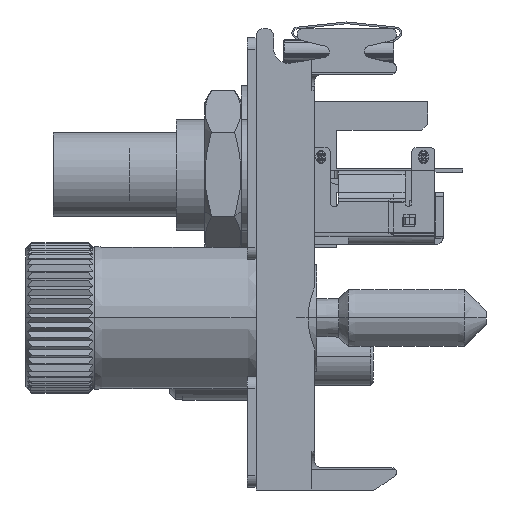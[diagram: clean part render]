
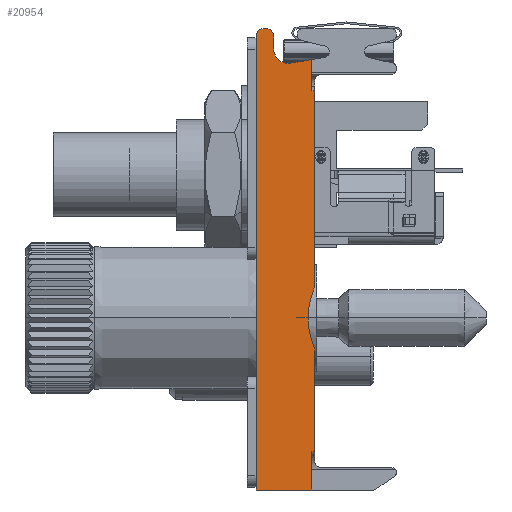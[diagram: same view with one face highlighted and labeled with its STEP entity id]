
A CAD part, front view. The second image highlights one B-rep face of the part: STEP entity #20954.
In plain terms, the highlighted planar face has unit normal (0, -1, 0).
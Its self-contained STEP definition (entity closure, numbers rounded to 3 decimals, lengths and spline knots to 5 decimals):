
#614=DIRECTION('',(0.,0.,1.));
#615=VECTOR('',#614,0.482);
#616=CARTESIAN_POINT('',(-0.20023,-4.502,0.20798));
#617=LINE('',#616,#615);
#654=CARTESIAN_POINT('',(-0.20023,-4.502,0.20798));
#694=DIRECTION('',(0.,0.,1.));
#695=VECTOR('',#694,0.294);
#696=CARTESIAN_POINT('',(-0.20023,-4.502,-0.08602));
#697=LINE('',#696,#695);
#935=DIRECTION('',(1.,0.,0.));
#936=VECTOR('',#935,0.095);
#937=CARTESIAN_POINT('',(-0.20023,-4.502,-0.08602));
#938=LINE('',#937,#936);
#1137=DIRECTION('',(0.,0.,1.));
#1138=VECTOR('',#1137,0.17544);
#1139=CARTESIAN_POINT('',(-0.10023,-4.502,-0.02052));
#1140=LINE('',#1139,#1138);
#1146=DIRECTION('',(0.,0.,1.));
#1147=VECTOR('',#1146,0.33494);
#1148=CARTESIAN_POINT('',(-0.10023,-4.502,
0.26104));
#1149=LINE('',#1148,#1147);
#3898=CARTESIAN_POINT('',(-0.18823,-4.502,0.68998));
#3899=DIRECTION('',(0.,-1.,0.));
#3900=DIRECTION('',(0.,0.,1.));
#3901=AXIS2_PLACEMENT_3D('',#3898,#3899,#3900);
#3903=CARTESIAN_POINT('',(-0.18223,-4.502,0.68998));
#3904=DIRECTION('',(0.,-1.,0.));
#3905=DIRECTION('',(1.,0.,0.));
#3906=AXIS2_PLACEMENT_3D('',#3903,#3904,#3905);
#3908=DIRECTION('',(0.,0.,-1.));
#3909=VECTOR('',#3908,0.022);
#3910=CARTESIAN_POINT('',(-0.17023,-4.502,0.68998));
#3911=LINE('',#3910,#3909);
#3912=CARTESIAN_POINT('',(-0.14523,-4.502,0.66798));
#3913=DIRECTION('',(0.,-1.,0.));
#3914=DIRECTION('',(-1.,0.,0.));
#3915=AXIS2_PLACEMENT_3D('',#3912,#3913,#3914);
#3917=DIRECTION('',(0.986,0.,0.168));
#3918=VECTOR('',#3917,0.03632);
#3919=CARTESIAN_POINT('',(-0.14103,-4.502,0.64333));
#3920=LINE('',#3919,#3918);
#3921=DIRECTION('',(0.,0.,1.));
#3922=VECTOR('',#3921,0.05345);
#3923=CARTESIAN_POINT('',(-0.10523,-4.502,0.59598));
#3924=LINE('',#3923,#3922);
#3925=DIRECTION('',(-1.,0.,0.));
#3926=VECTOR('',#3925,0.005);
#3927=CARTESIAN_POINT('',(-0.10023,-4.502,0.59598));
#3928=LINE('',#3927,#3926);
#3929=CARTESIAN_POINT('',(-0.10023,-4.502,
0.26104));
#3930=CARTESIAN_POINT('',(-0.10086,-4.502,
0.25943));
#3931=CARTESIAN_POINT('',(-0.10209,-4.502,
0.25623));
#3932=CARTESIAN_POINT('',(-0.10379,-4.502,
0.25139));
#3933=CARTESIAN_POINT('',(-0.10533,-4.502,
0.24653));
#3934=CARTESIAN_POINT('',(-0.10671,-4.502,
0.24167));
#3935=CARTESIAN_POINT('',(-0.10791,-4.502,
0.23681));
#3936=CARTESIAN_POINT('',(-0.10893,-4.502,
0.23195));
#3937=CARTESIAN_POINT('',(-0.10977,-4.502,
0.22711));
#3938=CARTESIAN_POINT('',(-0.11043,-4.502,
0.22228));
#3939=CARTESIAN_POINT('',(-0.11089,-4.502,
0.21748));
#3940=CARTESIAN_POINT('',(-0.11117,-4.502,
0.21271));
#3941=CARTESIAN_POINT('',(-0.11123,-4.502,0.20956));
#3942=CARTESIAN_POINT('',(-0.11123,-4.502,0.20799));
#3944=CARTESIAN_POINT('',(-0.11123,-4.502,0.20799));
#3945=CARTESIAN_POINT('',(-0.11123,-4.502,0.20642));
#3946=CARTESIAN_POINT('',(-0.11117,-4.502,
0.20326));
#3947=CARTESIAN_POINT('',(-0.11089,-4.502,
0.19847));
#3948=CARTESIAN_POINT('',(-0.11042,-4.502,
0.19365));
#3949=CARTESIAN_POINT('',(-0.10977,-4.502,
0.18881));
#3950=CARTESIAN_POINT('',(-0.10892,-4.502,
0.18395));
#3951=CARTESIAN_POINT('',(-0.1079,-4.502,
0.17908));
#3952=CARTESIAN_POINT('',(-0.10669,-4.502,
0.17422));
#3953=CARTESIAN_POINT('',(-0.10531,-4.502,
0.16936));
#3954=CARTESIAN_POINT('',(-0.10377,-4.502,
0.16452));
#3955=CARTESIAN_POINT('',(-0.10208,-4.502,
0.1597));
#3956=CARTESIAN_POINT('',(-0.10086,-4.502,
0.15651));
#3957=CARTESIAN_POINT('',(-0.10023,-4.502,
0.15492));
#3959=DIRECTION('',(-1.,0.,0.));
#3960=VECTOR('',#3959,0.005);
#3961=CARTESIAN_POINT('',(-0.10023,-4.502,-0.02052));
#3962=LINE('',#3961,#3960);
#3963=DIRECTION('',(0.,0.,1.));
#3964=VECTOR('',#3963,0.0655);
#3965=CARTESIAN_POINT('',(-0.10523,-4.502,-0.08602));
#3966=LINE('',#3965,#3964);
#3971=DIRECTION('',(-1.,0.,0.));
#3972=VECTOR('',#3971,0.006);
#3973=CARTESIAN_POINT('',(-0.18223,-4.502,0.70198));
#3974=LINE('',#3973,#3972);
#14534=CARTESIAN_POINT('',(-0.20023,-4.502,-0.08602));
#14536=VERTEX_POINT('',#14534);
#14548=CARTESIAN_POINT('',(-0.20023,-4.502,0.68998));
#14550=VERTEX_POINT('',#14548);
#14561=CARTESIAN_POINT('',(-0.17023,-4.502,0.68998));
#14562=CARTESIAN_POINT('',(-0.18223,-4.502,0.70198));
#14563=VERTEX_POINT('',#14561);
#14564=VERTEX_POINT('',#14562);
#14565=CARTESIAN_POINT('',(-0.17023,-4.502,0.66798));
#14566=VERTEX_POINT('',#14565);
#14567=CARTESIAN_POINT('',(-0.14103,-4.502,0.64333));
#14568=VERTEX_POINT('',#14567);
#14569=CARTESIAN_POINT('',(-0.18823,-4.502,0.70198));
#14570=VERTEX_POINT('',#14569);
#14631=CARTESIAN_POINT('',(-0.10023,-4.502,-0.02052));
#14632=VERTEX_POINT('',#14631);
#14633=CARTESIAN_POINT('',(-0.10523,-4.502,-0.08602));
#14635=VERTEX_POINT('',#14633);
#14639=CARTESIAN_POINT('',(-0.10523,-4.502,-0.02052));
#14640=VERTEX_POINT('',#14639);
#14641=CARTESIAN_POINT('',(-0.10523,-4.502,0.59598));
#14642=CARTESIAN_POINT('',(-0.10523,-4.502,0.64943));
#14643=VERTEX_POINT('',#14641);
#14644=VERTEX_POINT('',#14642);
#14645=CARTESIAN_POINT('',(-0.10023,-4.502,0.59598));
#14646=VERTEX_POINT('',#14645);
#14691=VERTEX_POINT('',#3944);
#14692=VERTEX_POINT('',#3957);
#14697=VERTEX_POINT('',#3929);
#15006=VERTEX_POINT('',#654);
#20919=CARTESIAN_POINT('',(-0.10023,-4.502,-0.08602));
#20920=DIRECTION('',(0.,-1.,0.));
#20921=DIRECTION('',(0.,0.,1.));
#20922=AXIS2_PLACEMENT_3D('',#20919,#20920,#20921);
#20923=PLANE('',#20922);
#20924=ORIENTED_EDGE('',*,*,#17270,.T.);
#20925=ORIENTED_EDGE('',*,*,#17264,.T.);
#20927=ORIENTED_EDGE('',*,*,#20926,.F.);
#20929=ORIENTED_EDGE('',*,*,#20928,.F.);
#20931=ORIENTED_EDGE('',*,*,#20930,.F.);
#20933=ORIENTED_EDGE('',*,*,#20932,.T.);
#20935=ORIENTED_EDGE('',*,*,#20934,.T.);
#20937=ORIENTED_EDGE('',*,*,#20936,.T.);
#20939=ORIENTED_EDGE('',*,*,#20938,.F.);
#20940=ORIENTED_EDGE('',*,*,#20912,.F.);
#20941=ORIENTED_EDGE('',*,*,#17572,.F.);
#20943=ORIENTED_EDGE('',*,*,#20942,.T.);
#20945=ORIENTED_EDGE('',*,*,#20944,.T.);
#20946=ORIENTED_EDGE('',*,*,#17566,.F.);
#20948=ORIENTED_EDGE('',*,*,#20947,.T.);
#20950=ORIENTED_EDGE('',*,*,#20949,.F.);
#20951=ORIENTED_EDGE('',*,*,#17418,.F.);
#20952=EDGE_LOOP('',(#20924,#20925,#20927,#20929,#20931,#20933,#20935,#20937,
#20939,#20940,#20941,#20943,#20945,#20946,#20948,#20950,#20951));
#20953=FACE_OUTER_BOUND('',#20952,.F.);
#20954=ADVANCED_FACE('',(#20953),#20923,.T.);
#3902=CIRCLE('',#3901,0.012);
#3907=CIRCLE('',#3906,0.012);
#3916=CIRCLE('',#3915,0.025);
#3943=B_SPLINE_CURVE_WITH_KNOTS('',3,(#3929,#3930,#3931,#3932,#3933,#3934,#3935,
#3936,#3937,#3938,#3939,#3940,#3941,#3942),.UNSPECIFIED.,.F.,.F.,(4,1,1,1,1,1,1,
1,1,1,1,4),(0.,0.09091,0.18182,0.27273,
0.36364,0.45455,0.54545,0.63636,
0.72727,0.81818,0.90909,1.),.UNSPECIFIED.);
#3958=B_SPLINE_CURVE_WITH_KNOTS('',3,(#3944,#3945,#3946,#3947,#3948,#3949,#3950,
#3951,#3952,#3953,#3954,#3955,#3956,#3957),.UNSPECIFIED.,.F.,.F.,(4,1,1,1,1,1,1,
1,1,1,1,4),(0.,0.09091,0.18182,0.27273,
0.36364,0.45455,0.54545,0.63636,
0.72727,0.81818,0.90909,1.),.UNSPECIFIED.);
#17264=EDGE_CURVE('',#15006,#14550,#617,.T.);
#17270=EDGE_CURVE('',#14536,#15006,#697,.T.);
#17418=EDGE_CURVE('',#14536,#14635,#938,.T.);
#17566=EDGE_CURVE('',#14632,#14692,#1140,.T.);
#17572=EDGE_CURVE('',#14697,#14646,#1149,.T.);
#20912=EDGE_CURVE('',#14646,#14643,#3928,.T.);
#20926=EDGE_CURVE('',#14570,#14550,#3902,.T.);
#20928=EDGE_CURVE('',#14564,#14570,#3974,.T.);
#20930=EDGE_CURVE('',#14563,#14564,#3907,.T.);
#20932=EDGE_CURVE('',#14563,#14566,#3911,.T.);
#20934=EDGE_CURVE('',#14566,#14568,#3916,.T.);
#20936=EDGE_CURVE('',#14568,#14644,#3920,.T.);
#20938=EDGE_CURVE('',#14643,#14644,#3924,.T.);
#20942=EDGE_CURVE('',#14697,#14691,#3943,.T.);
#20944=EDGE_CURVE('',#14691,#14692,#3958,.T.);
#20947=EDGE_CURVE('',#14632,#14640,#3962,.T.);
#20949=EDGE_CURVE('',#14635,#14640,#3966,.T.);
